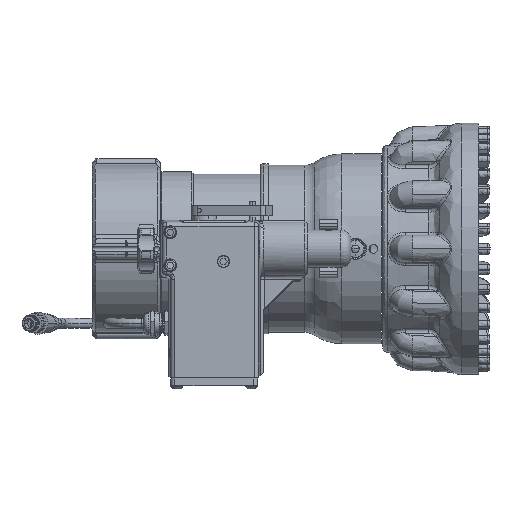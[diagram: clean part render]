
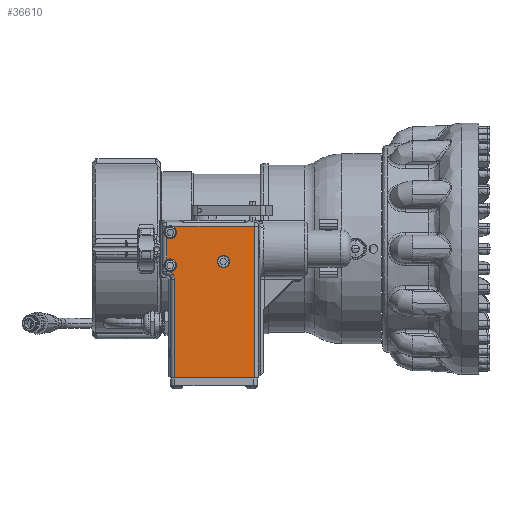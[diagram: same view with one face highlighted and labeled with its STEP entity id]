
A CAD part, front view. The second image highlights one B-rep face of the part: STEP entity #36610.
In plain terms, the highlighted planar face has unit normal (0, -1, 0).
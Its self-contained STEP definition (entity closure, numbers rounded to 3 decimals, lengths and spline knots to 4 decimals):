
#5743 =( BOUNDED_CURVE ( )  B_SPLINE_CURVE ( 3, ( #55410, #55406, #55411, #55412 ),
 .UNSPECIFIED., .F., .F. ) 
 B_SPLINE_CURVE_WITH_KNOTS ( ( 4, 4 ),
 ( 5.4984, 6.2832 ),
 .UNSPECIFIED. ) 
 CURVE ( )  GEOMETRIC_REPRESENTATION_ITEM ( )  RATIONAL_B_SPLINE_CURVE ( ( 1., 0.949, 0.949, 1. ) ) 
 REPRESENTATION_ITEM ( '' )  );
#5916 =( BOUNDED_CURVE ( )  B_SPLINE_CURVE ( 3, ( #58367, #58366, #58372, #58373 ),
 .UNSPECIFIED., .F., .F. ) 
 B_SPLINE_CURVE_WITH_KNOTS ( ( 4, 4 ),
 ( 0., 0.3827 ),
 .UNSPECIFIED. ) 
 CURVE ( )  GEOMETRIC_REPRESENTATION_ITEM ( )  RATIONAL_B_SPLINE_CURVE ( ( 1., 0.988, 0.988, 1. ) ) 
 REPRESENTATION_ITEM ( '' )  );
#10713 = EDGE_LOOP ( 'NONE', ( #32959, #32960 ) ) ;
#10714 = EDGE_LOOP ( 'NONE', ( #32948, #32949, #32950, #32951, #32952, #32953, #32954, #32955, #32956, #32957, #32958 ) ) ;
#18016 = VERTEX_POINT ( 'NONE', #97545 ) ;
#18020 = VERTEX_POINT ( 'NONE', #97547 ) ;
#18024 = VERTEX_POINT ( 'NONE', #97549 ) ;
#18074 = VERTEX_POINT ( 'NONE', #97572 ) ;
#18076 = VERTEX_POINT ( 'NONE', #97573 ) ;
#18081 = VERTEX_POINT ( 'NONE', #97575 ) ;
#18085 = VERTEX_POINT ( 'NONE', #97577 ) ;
#26774 = CARTESIAN_POINT ( 'NONE',  ( 1.495, -5.83, 0.5 ) ) ;
#26777 = CARTESIAN_POINT ( 'NONE',  ( 1.1861, -5.83, 0.3417 ) ) ;
#26826 = CARTESIAN_POINT ( 'NONE',  ( 1.495, -5.83, -0.5 ) ) ;
#26829 = CARTESIAN_POINT ( 'NONE',  ( 1.2892, -5.83, -0.6947 ) ) ;
#26911 = CARTESIAN_POINT ( 'NONE',  ( 1.4411, -5.83, -0.9246 ) ) ;
#26915 = CARTESIAN_POINT ( 'NONE',  ( 1.368, -5.83, -0.7479 ) ) ;
#30772 = CARTESIAN_POINT ( 'NONE',  ( 1.2558, -5.83, -0.8601 ) ) ;
#30775 = PLANE ( 'NONE',  #36336 ) ;
#30777 = DIRECTION ( 'NONE',  ( 0., -1., 0. ) ) ;
#30778 = DIRECTION ( 'NONE',  ( 1., 0., 0. ) ) ;
#32948 = ORIENTED_EDGE ( 'NONE', *, *, #42909, .F. ) ;
#32949 = ORIENTED_EDGE ( 'NONE', *, *, #43653, .F. ) ;
#32950 = ORIENTED_EDGE ( 'NONE', *, *, #42913, .F. ) ;
#32951 = ORIENTED_EDGE ( 'NONE', *, *, #43528, .T. ) ;
#32952 = ORIENTED_EDGE ( 'NONE', *, *, #43672, .F. ) ;
#32953 = ORIENTED_EDGE ( 'NONE', *, *, #43675, .T. ) ;
#32954 = ORIENTED_EDGE ( 'NONE', *, *, #43481, .T. ) ;
#32955 = ORIENTED_EDGE ( 'NONE', *, *, #43500, .F. ) ;
#32956 = ORIENTED_EDGE ( 'NONE', *, *, #42968, .F. ) ;
#32957 = ORIENTED_EDGE ( 'NONE', *, *, #43507, .T. ) ;
#32958 = ORIENTED_EDGE ( 'NONE', *, *, #43669, .F. ) ;
#32959 = ORIENTED_EDGE ( 'NONE', *, *, #43679, .F. ) ;
#32960 = ORIENTED_EDGE ( 'NONE', *, *, #43681, .F. ) ;
#34851 = VERTEX_POINT ( 'NONE', #26774 ) ;
#34853 = VERTEX_POINT ( 'NONE', #26777 ) ;
#34873 = VERTEX_POINT ( 'NONE', #26826 ) ;
#34874 = VERTEX_POINT ( 'NONE', #26829 ) ;
#34907 = VERTEX_POINT ( 'NONE', #26911 ) ;
#34909 = VERTEX_POINT ( 'NONE', #26915 ) ;
#36336 = AXIS2_PLACEMENT_3D ( 'NONE', #30772, #30777, #30778 ) ;
#36610 = ADVANCED_FACE ( 'NONE', ( #73214, #73221 ), #30775, .T. ) ;
#36742 = AXIS2_PLACEMENT_3D ( 'NONE', #55407, #55408, #55409 ) ;
#36749 = AXIS2_PLACEMENT_3D ( 'NONE', #55473, #55474, #55475 ) ;
#36797 = AXIS2_PLACEMENT_3D ( 'NONE', #58209, #58210, #58211 ) ;
#36807 = AXIS2_PLACEMENT_3D ( 'NONE', #58384, #58385, #58386 ) ;
#36808 = AXIS2_PLACEMENT_3D ( 'NONE', #58389, #58390, #58391 ) ;
#36809 = AXIS2_PLACEMENT_3D ( 'NONE', #58392, #58393, #58394 ) ;
#42909 = EDGE_CURVE ( 'NONE', #34874, #34873, #55711, .T. ) ;
#42913 = EDGE_CURVE ( 'NONE', #34907, #34909, #5743, .T. ) ;
#42968 = EDGE_CURVE ( 'NONE', #34853, #34851, #55729, .T. ) ;
#43481 = EDGE_CURVE ( 'NONE', #18085, #18081, #56015, .T. ) ;
#43500 = EDGE_CURVE ( 'NONE', #34851, #18081, #56023, .T. ) ;
#43507 = EDGE_CURVE ( 'NONE', #34853, #18074, #56025, .T. ) ;
#43528 = EDGE_CURVE ( 'NONE', #34907, #18076, #56013, .T. ) ;
#43653 = EDGE_CURVE ( 'NONE', #34909, #34874, #5916, .T. ) ;
#43669 = EDGE_CURVE ( 'NONE', #34873, #18074, #56143, .T. ) ;
#43672 = EDGE_CURVE ( 'NONE', #18016, #18076, #56146, .T. ) ;
#43675 = EDGE_CURVE ( 'NONE', #18016, #18085, #56148, .T. ) ;
#43679 = EDGE_CURVE ( 'NONE', #18020, #18024, #56152, .T. ) ;
#43681 = EDGE_CURVE ( 'NONE', #18024, #18020, #56130, .T. ) ;
#55406 = CARTESIAN_POINT ( 'NONE',  ( 1.4411, -5.83, -0.8574 ) ) ;
#55407 = CARTESIAN_POINT ( 'NONE',  ( 1.3, -5.83, -0.5 ) ) ;
#55408 = DIRECTION ( 'NONE',  ( 0., -1., 0. ) ) ;
#55409 = DIRECTION ( 'NONE',  ( -1., 0., 0. ) ) ;
#55410 = CARTESIAN_POINT ( 'NONE',  ( 1.4411, -5.83, -0.9246 ) ) ;
#55411 = CARTESIAN_POINT ( 'NONE',  ( 1.4155, -5.83, -0.7954 ) ) ;
#55412 = CARTESIAN_POINT ( 'NONE',  ( 1.368, -5.83, -0.7479 ) ) ;
#55473 = CARTESIAN_POINT ( 'NONE',  ( 1.3, -5.83, 0.5 ) ) ;
#55474 = DIRECTION ( 'NONE',  ( 0., -1., 0. ) ) ;
#55475 = DIRECTION ( 'NONE',  ( 1., 0., 0. ) ) ;
#55711 = CIRCLE ( 'NONE', #36742, 0.195 ) ;
#55729 = CIRCLE ( 'NONE', #36749, 0.195 ) ;
#56013 = LINE ( 'NONE', #58249, #56047 ) ;
#56015 = LINE ( 'NONE', #58174, #56017 ) ;
#56017 = VECTOR ( 'NONE', #58176, 39.3701 ) ;
#56023 = CIRCLE ( 'NONE', #36797, 0.195 ) ;
#56025 = LINE ( 'NONE', #58234, #56029 ) ;
#56029 = VECTOR ( 'NONE', #58235, 39.3701 ) ;
#56047 = VECTOR ( 'NONE', #58223, 39.3701 ) ;
#56130 = CIRCLE ( 'NONE', #36809, 0.1685 ) ;
#56143 = CIRCLE ( 'NONE', #36807, 0.195 ) ;
#56146 = LINE ( 'NONE', #58379, #56150 ) ;
#56148 = LINE ( 'NONE', #58387, #56154 ) ;
#56150 = VECTOR ( 'NONE', #58380, 39.3701 ) ;
#56152 = CIRCLE ( 'NONE', #36808, 0.1685 ) ;
#56154 = VECTOR ( 'NONE', #58388, 39.3701 ) ;
#58174 = CARTESIAN_POINT ( 'NONE',  ( 1.0654, -5.83, 0.6796 ) ) ;
#58176 = DIRECTION ( 'NONE',  ( -1., 0., 0. ) ) ;
#58209 = CARTESIAN_POINT ( 'NONE',  ( 1.3, -5.83, 0.5 ) ) ;
#58210 = DIRECTION ( 'NONE',  ( 0., -1., 0. ) ) ;
#58211 = DIRECTION ( 'NONE',  ( 1., 0., 0. ) ) ;
#58223 = DIRECTION ( 'NONE',  ( 0., 0., -1. ) ) ;
#58234 = CARTESIAN_POINT ( 'NONE',  ( 1.1861, -5.83, -0.7955 ) ) ;
#58235 = DIRECTION ( 'NONE',  ( 0., 0., -1. ) ) ;
#58249 = CARTESIAN_POINT ( 'NONE',  ( 1.4411, -5.83, -3.9305 ) ) ;
#58366 = CARTESIAN_POINT ( 'NONE',  ( 1.3453, -5.83, -0.7252 ) ) ;
#58367 = CARTESIAN_POINT ( 'NONE',  ( 1.368, -5.83, -0.7479 ) ) ;
#58372 = CARTESIAN_POINT ( 'NONE',  ( 1.3187, -5.83, -0.7073 ) ) ;
#58373 = CARTESIAN_POINT ( 'NONE',  ( 1.2892, -5.83, -0.6947 ) ) ;
#58379 = CARTESIAN_POINT ( 'NONE',  ( 1.2558, -5.83, -3.9 ) ) ;
#58380 = DIRECTION ( 'NONE',  ( -1., 0., 0. ) ) ;
#58384 = CARTESIAN_POINT ( 'NONE',  ( 1.3, -5.83, -0.5 ) ) ;
#58385 = DIRECTION ( 'NONE',  ( 0., -1., 0. ) ) ;
#58386 = DIRECTION ( 'NONE',  ( -1., 0., 0. ) ) ;
#58387 = CARTESIAN_POINT ( 'NONE',  ( 3.8405, -5.83, 0.8003 ) ) ;
#58388 = DIRECTION ( 'NONE',  ( 0., 0., 1. ) ) ;
#58389 = CARTESIAN_POINT ( 'NONE',  ( 2.905, -5.83, -0.385 ) ) ;
#58390 = DIRECTION ( 'NONE',  ( 0., -1., 0. ) ) ;
#58391 = DIRECTION ( 'NONE',  ( 1., 0., 0. ) ) ;
#58392 = CARTESIAN_POINT ( 'NONE',  ( 2.905, -5.83, -0.385 ) ) ;
#58393 = DIRECTION ( 'NONE',  ( 0., -1., 0. ) ) ;
#58394 = DIRECTION ( 'NONE',  ( 1., 0., 0. ) ) ;
#73214 = FACE_OUTER_BOUND ( 'NONE', #10714, .T. ) ;
#73221 = FACE_BOUND ( 'NONE', #10713, .T. ) ;
#97545 = CARTESIAN_POINT ( 'NONE',  ( 3.8405, -5.83, -3.9 ) ) ;
#97547 = CARTESIAN_POINT ( 'NONE',  ( 3.0735, -5.83, -0.385 ) ) ;
#97549 = CARTESIAN_POINT ( 'NONE',  ( 2.7365, -5.83, -0.385 ) ) ;
#97572 = CARTESIAN_POINT ( 'NONE',  ( 1.1861, -5.83, -0.3417 ) ) ;
#97573 = CARTESIAN_POINT ( 'NONE',  ( 1.4411, -5.83, -3.9 ) ) ;
#97575 = CARTESIAN_POINT ( 'NONE',  ( 1.3759, -5.83, 0.6796 ) ) ;
#97577 = CARTESIAN_POINT ( 'NONE',  ( 3.8405, -5.83, 0.6796 ) ) ;
